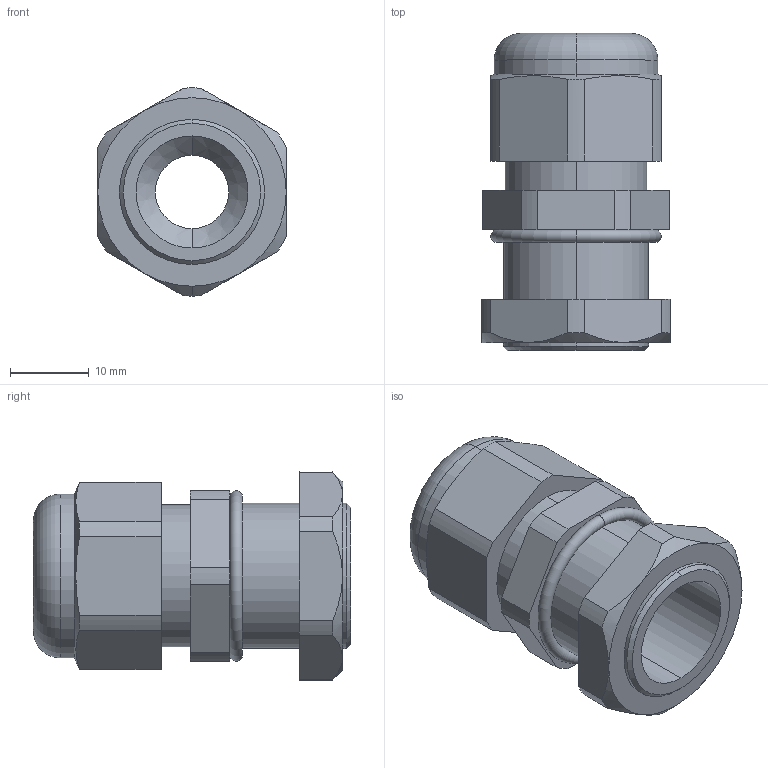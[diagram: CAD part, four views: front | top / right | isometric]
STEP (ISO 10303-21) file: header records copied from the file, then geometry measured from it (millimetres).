
FILE_DESCRIPTION (( 'STEP AP203' ), '1' );
FILE_NAME ('CH-PG11L.STEP', '2018-02-07T14:39:20', ( '' ), ( '' ), 'SwSTEP 2.0', 'SolidWorks 2012', '' );
FILE_SCHEMA (( 'CONFIG_CONTROL_DESIGN' ));
Length unit declared in the file: millimetre
Products named in the file (1): CH-PG11L
Bounding box: 23.9 x 40.2 x 26.39 mm (x, y, z)
Volume: 9295.6 mm3; surface area: 5620.3 mm2
Topology: 1 solids, 1 shells, 78 faces, 189 edges, 118 vertices
Faces by surface type: cylinder 34, plane 25, cone 15, torus 4
Entity records: 2466 total; most frequent: CARTESIAN_POINT 520, DIRECTION 415, ORIENTED_EDGE 378, EDGE_CURVE 189, AXIS2_PLACEMENT_3D 165, VERTEX_POINT 118, CIRCLE 86, VECTOR 85
